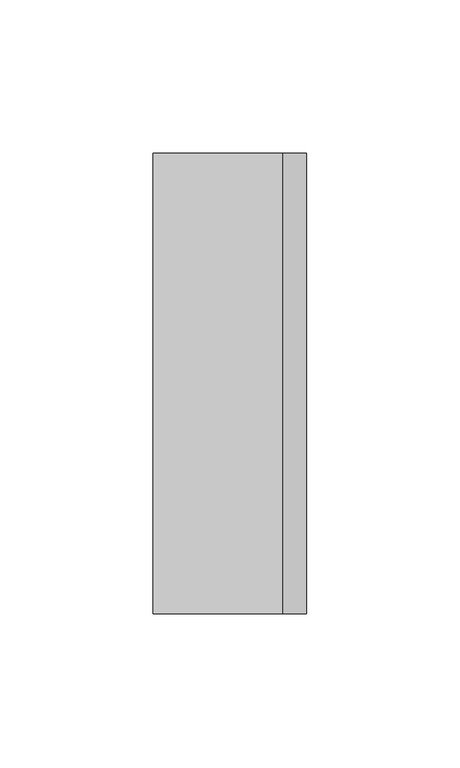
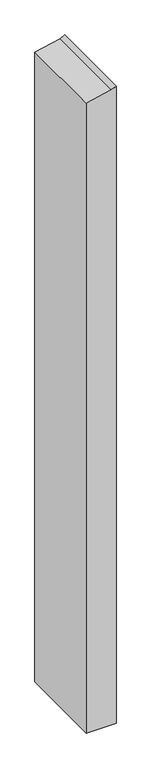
"""IFC4 building model written with IfcOpenShell, lengths in millimetres: member geometry, Прямоугольный импост : 50 x 150 мм."""

from ifc_helpers import new_model, si_unit, frame, origin, place, context, project, spatial, polyline, outline, extrude, source, transform, mapped, element, save


def member_bf63d6ee(model_context):
    return source(origin(), model_context, "Body", "SweptSolid", [
        extrude(outline(polyline([(-43.3262107, 25.0), (-47.459385, 17.3244554), (-56.3061336, -25.0), (-1177.6395362, -25.0), (-1177.6395362, 25.0), (-43.3262107, 25.0)])), frame((0.0, -75.0, 0.0), z_axis=(0.0, 1.0, 0.0), x_axis=(0.0, 0.0, 1.0)), (0.0, 0.0, 1.0), 150.0),
    ])


if __name__ == "__main__":
    model = new_model("IFC4")
    model_context = context("Model", 3, world=origin())
    ifc_project = project(units=[si_unit("LENGTHUNIT", "METRE", prefix="MILLI")], contexts=[model_context])
    site = spatial("IfcSite", under=ifc_project)
    building = spatial("IfcBuilding", under=site)
    placement = place(None, origin())
    member_shape = member_bf63d6ee(model_context)
    element("IfcMember", 1, ObjectType="Прямоугольный импост : 50 x 150 мм", at=placement, inside=building, context=model_context, shape_type="MappedRepresentation", body=[
        mapped(member_shape, transform((0.0, 0.0, 0.0), x_axis=(1.0, 0.0, 0.0), y_axis=(0.0, 1.0, 0.0), z_axis=(0.0, 0.0, 1.0))),
    ])
    save(model, "model.ifc")
